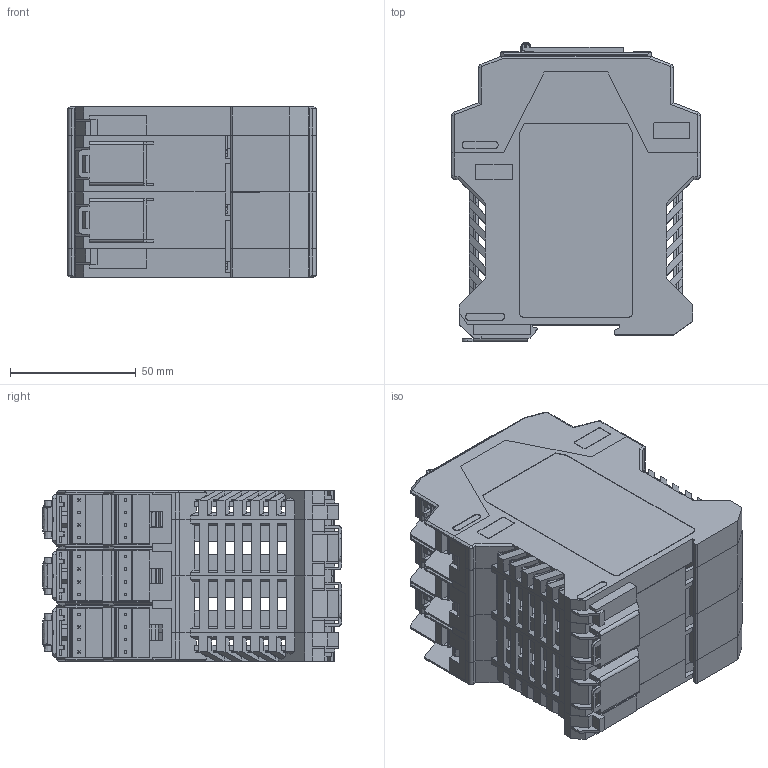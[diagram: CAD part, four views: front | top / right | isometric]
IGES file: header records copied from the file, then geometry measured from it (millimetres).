
Global section: file name: D:\CS\IDF\SGBVS\SG_BWS_T4_MT_jt.igs; native system: NX V10.0; preprocessor: SIEMENS PLM Software NX 10.0; date: 20180320.152859; units: millimetre
Bounding box: 99 x 119.1 x 67.8 mm (x, y, z)
Surface area: 173910.4 mm2 (no closed solid volume)
Topology: 0 solids, 0 shells, 5753 faces, 31952 edges, 31955 vertices
Faces by surface type: bspline 5753
